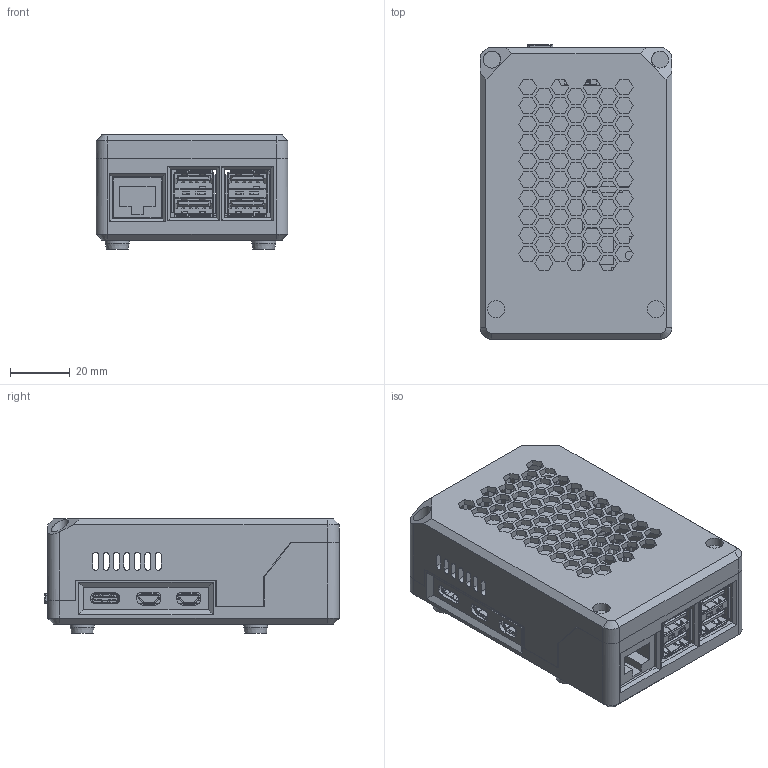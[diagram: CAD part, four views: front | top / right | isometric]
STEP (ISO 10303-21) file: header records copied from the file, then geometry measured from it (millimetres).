
FILE_DESCRIPTION(/* description */ (''),/* implementation_level */ '2;1');
FILE_NAME(/* name */ 'RPi5 + X1001 Case v15.step',/* time_stamp */ '2025-11-24T17:14:39-08:00',/* author */ (''),/* organization */ (''),/* preprocessor_version */ 'ST-DEVELOPER v20.1',/* originating_system */ 'Autodesk Translation Framework v14.21.0.0',/* authorisation */ '');
FILE_SCHEMA (('AUTOMOTIVE_DESIGN { 1 0 10303 214 3 1 1 }'));
Products named in the file (26): RPi5 + X1001 Case; RPi5 + X1001; Raspberry_Pi_5_3D_model; PCB_for REF 060923; GPIO Header for REF; Micro HDMI for REF; SD CARD for REF; USB-C for REF; RJ45 for REF; USB for REF; PCIe for REF; CAM-DISP for REF; LED for REF; BAT Header for REF; PoE Header for REF; FAN Header for REF; SWITCH for REF; UART for REF; X1001; PCB; M2; Case; CaseUpper; CaseLower; PowerButton; Spacer
Assembly tree (31 placements, depth 4):
  RPi5 + X1001 Case
    RPi5 + X1001
      Raspberry_Pi_5_3D_model
        PCB_for REF 060923
        GPIO Header for REF
        Micro HDMI for REF  x2
        SD CARD for REF
        USB-C for REF
        RJ45 for REF
        USB for REF  x2
        PCIe for REF
        CAM-DISP for REF  x2
        LED for REF
        BAT Header for REF
        PoE Header for REF
        FAN Header for REF
        SWITCH for REF
        UART for REF
      X1001
        PCB
        M2
    Case
      CaseUpper
      CaseLower
      PowerButton
      Spacer  x4
Bounding box: 64.2 x 98.5 x 38.2 mm (x, y, z)
Volume: 64979.6 mm3; surface area: 79382.9 mm2
Topology: 56 solids, 56 shells, 3825 faces, 10459 edges, 6885 vertices
Faces by surface type: plane 2838, cylinder 930, cone 26, bspline 25, torus 6
Full cylindrical faces by diameter (mm): 1 x82, 2 x1, 2.3 x1, 2.6 x2, 2.7 x14, 2.8 x2, 3 x2, 3.4 x4, 3.8 x6, 5.7 x2, 5.8 x2, 6 x4, 8 x4
Entity records: 99651 total; most frequent: CARTESIAN_POINT 18001, ORIENTED_EDGE 16998, DIRECTION 16279, EDGE_CURVE 8499, LINE 6929, VECTOR 6929, VERTEX_POINT 5605, AXIS2_PLACEMENT_3D 4675
